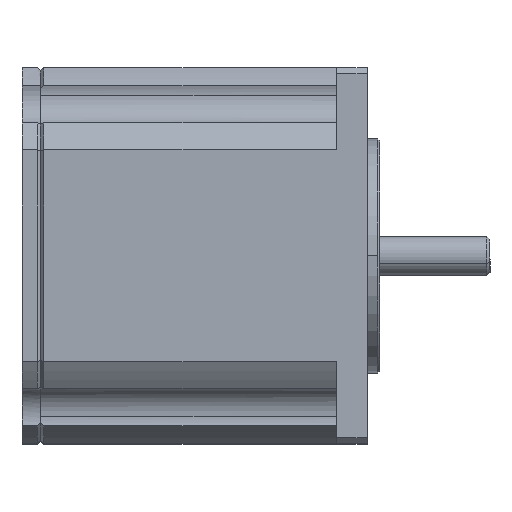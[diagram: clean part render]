
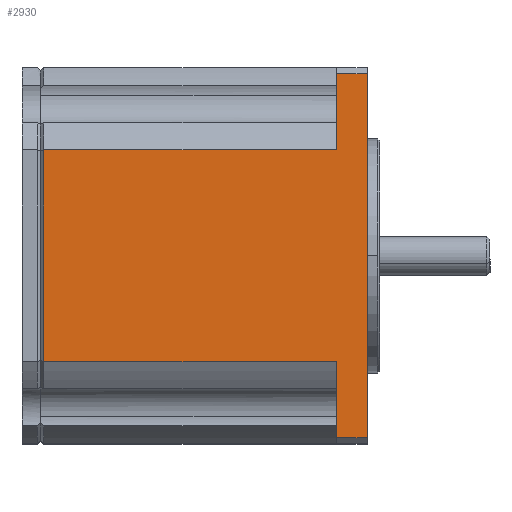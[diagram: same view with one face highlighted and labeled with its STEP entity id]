
A CAD part, top view. The second image highlights one B-rep face of the part: STEP entity #2930.
In plain terms, the highlighted planar face has unit normal (0, 0, 1).
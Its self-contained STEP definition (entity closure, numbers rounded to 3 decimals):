
#6 = EDGE_CURVE ( 'NONE', #1885, #6186, #2033, .T. ) ;
#202 = CARTESIAN_POINT ( 'NONE',  ( 0., -29.5, 30.5 ) ) ;
#222 = VECTOR ( 'NONE', #8372, 1000. ) ;
#310 = ORIENTED_EDGE ( 'NONE', *, *, #6764, .T. ) ;
#558 = ORIENTED_EDGE ( 'NONE', *, *, #5398, .T. ) ;
#757 = DIRECTION ( 'NONE',  ( 1., 0., 0. ) ) ;
#1178 = CARTESIAN_POINT ( 'NONE',  ( -5., -29.5, 30.5 ) ) ;
#1247 = EDGE_LOOP ( 'NONE', ( #7538, #5389, #3026, #558, #1986, #310, #2798, #5756 ) ) ;
#1678 = LINE ( 'NONE', #2247, #3181 ) ;
#1885 = VERTEX_POINT ( 'NONE', #7473 ) ;
#1986 = ORIENTED_EDGE ( 'NONE', *, *, #8493, .T. ) ;
#2033 = LINE ( 'NONE', #5943, #2556 ) ;
#2181 = CARTESIAN_POINT ( 'NONE',  ( 0., 30.5, 30.5 ) ) ;
#2221 = DIRECTION ( 'NONE',  ( 0., 1., 0. ) ) ;
#2247 = CARTESIAN_POINT ( 'NONE',  ( -53., 29.5, 30.5 ) ) ;
#2459 = EDGE_CURVE ( 'NONE', #7380, #6186, #4573, .T. ) ;
#2556 = VECTOR ( 'NONE', #7308, 1000. ) ;
#2737 = DIRECTION ( 'NONE',  ( 0., 0., -1. ) ) ;
#2798 = ORIENTED_EDGE ( 'NONE', *, *, #5227, .T. ) ;
#2930 = ADVANCED_FACE ( 'NONE', ( #6724 ), #6005, .F. ) ;
#3026 = ORIENTED_EDGE ( 'NONE', *, *, #7498, .F. ) ;
#3181 = VECTOR ( 'NONE', #4304, 1000. ) ;
#3269 = VERTEX_POINT ( 'NONE', #1178 ) ;
#3441 = CARTESIAN_POINT ( 'NONE',  ( -52.5, -17.168, 30.5 ) ) ;
#3526 = LINE ( 'NONE', #7033, #222 ) ;
#3538 = VECTOR ( 'NONE', #7764, 1000. ) ;
#4304 = DIRECTION ( 'NONE',  ( -1., 0., 0. ) ) ;
#4324 = EDGE_CURVE ( 'NONE', #1885, #6293, #6090, .T. ) ;
#4501 = CARTESIAN_POINT ( 'NONE',  ( 99.985, -17.168, 30.5 ) ) ;
#4573 = LINE ( 'NONE', #7314, #5159 ) ;
#4589 = CARTESIAN_POINT ( 'NONE',  ( -53., 30.5, 30.5 ) ) ;
#4850 = CARTESIAN_POINT ( 'NONE',  ( -52.5, 30.5, 30.5 ) ) ;
#5102 = CARTESIAN_POINT ( 'NONE',  ( -5., -17.168, 30.5 ) ) ;
#5159 = VECTOR ( 'NONE', #5949, 1000. ) ;
#5227 = EDGE_CURVE ( 'NONE', #8515, #7380, #1678, .T. ) ;
#5389 = ORIENTED_EDGE ( 'NONE', *, *, #4324, .T. ) ;
#5398 = EDGE_CURVE ( 'NONE', #7360, #3269, #6409, .T. ) ;
#5411 = LINE ( 'NONE', #2181, #6488 ) ;
#5756 = ORIENTED_EDGE ( 'NONE', *, *, #2459, .T. ) ;
#5768 = CARTESIAN_POINT ( 'NONE',  ( -5., 30.5, 30.5 ) ) ;
#5943 = CARTESIAN_POINT ( 'NONE',  ( 99.985, 17.168, 30.5 ) ) ;
#5949 = DIRECTION ( 'NONE',  ( 0., -1., 0. ) ) ;
#6005 = PLANE ( 'NONE',  #6252 ) ;
#6090 = LINE ( 'NONE', #4850, #8508 ) ;
#6186 = VERTEX_POINT ( 'NONE', #6316 ) ;
#6252 = AXIS2_PLACEMENT_3D ( 'NONE', #4589, #2737, #757 ) ;
#6293 = VERTEX_POINT ( 'NONE', #3441 ) ;
#6316 = CARTESIAN_POINT ( 'NONE',  ( -5., 17.168, 30.5 ) ) ;
#6409 = LINE ( 'NONE', #5768, #7848 ) ;
#6433 = CARTESIAN_POINT ( 'NONE',  ( 0., 29.5, 30.5 ) ) ;
#6488 = VECTOR ( 'NONE', #2221, 1000. ) ;
#6724 = FACE_OUTER_BOUND ( 'NONE', #1247, .T. ) ;
#6764 = EDGE_CURVE ( 'NONE', #8449, #8515, #5411, .T. ) ;
#6947 = CARTESIAN_POINT ( 'NONE',  ( -5., 29.5, 30.5 ) ) ;
#7033 = CARTESIAN_POINT ( 'NONE',  ( -53., -29.5, 30.5 ) ) ;
#7308 = DIRECTION ( 'NONE',  ( 1., 0., 0. ) ) ;
#7314 = CARTESIAN_POINT ( 'NONE',  ( -5., 30.5, 30.5 ) ) ;
#7360 = VERTEX_POINT ( 'NONE', #5102 ) ;
#7380 = VERTEX_POINT ( 'NONE', #6947 ) ;
#7465 = DIRECTION ( 'NONE',  ( 0., -1., 0. ) ) ;
#7473 = CARTESIAN_POINT ( 'NONE',  ( -52.5, 17.168, 30.5 ) ) ;
#7498 = EDGE_CURVE ( 'NONE', #7360, #6293, #7893, .T. ) ;
#7538 = ORIENTED_EDGE ( 'NONE', *, *, #6, .F. ) ;
#7764 = DIRECTION ( 'NONE',  ( -1., 0., 0. ) ) ;
#7848 = VECTOR ( 'NONE', #8391, 1000. ) ;
#7893 = LINE ( 'NONE', #4501, #3538 ) ;
#8372 = DIRECTION ( 'NONE',  ( 1., 0., 0. ) ) ;
#8391 = DIRECTION ( 'NONE',  ( 0., -1., 0. ) ) ;
#8449 = VERTEX_POINT ( 'NONE', #202 ) ;
#8493 = EDGE_CURVE ( 'NONE', #3269, #8449, #3526, .T. ) ;
#8508 = VECTOR ( 'NONE', #7465, 1000. ) ;
#8515 = VERTEX_POINT ( 'NONE', #6433 ) ;
